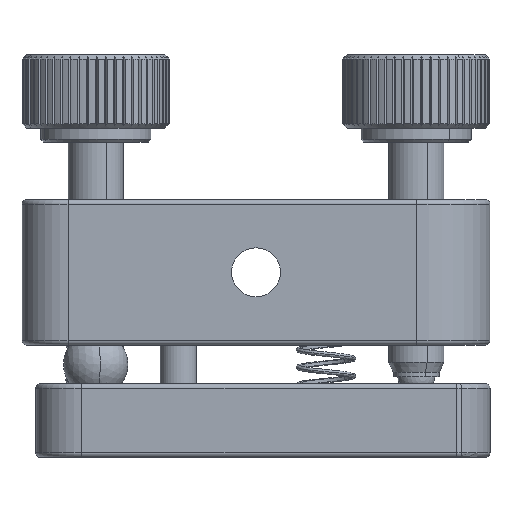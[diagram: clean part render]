
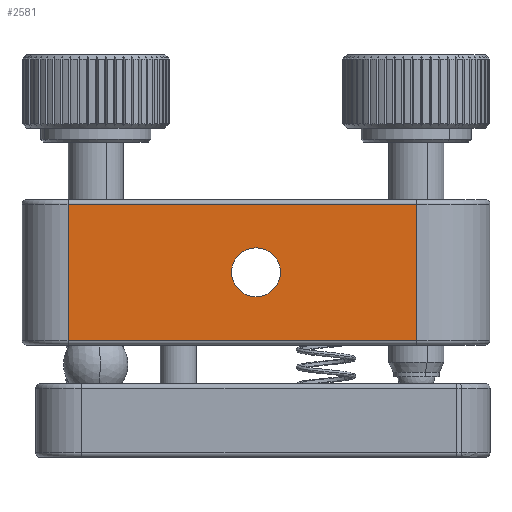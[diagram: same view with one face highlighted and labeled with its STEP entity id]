
A CAD part, front view. The second image highlights one B-rep face of the part: STEP entity #2581.
In plain terms, the highlighted planar face has unit normal (0, -1, 0).
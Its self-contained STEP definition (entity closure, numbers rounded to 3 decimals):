
#372 = DIRECTION ( 'NONE',  ( 1., 0., 0. ) ) ;
#480 = DIRECTION ( 'NONE',  ( -1., 0., 0. ) ) ;
#915 = EDGE_CURVE ( 'NONE', #11924, #27088, #6529, .T. ) ;
#1169 = CARTESIAN_POINT ( 'NONE',  ( 74.052, 27.866, -58.289 ) ) ;
#2581 = ADVANCED_FACE ( 'NONE', ( #6216, #16926 ), #27637, .F. ) ;
#3574 = CARTESIAN_POINT ( 'NONE',  ( 74.052, 27.866, -42.989 ) ) ;
#6064 = CARTESIAN_POINT ( 'NONE',  ( 74.052, 27.866, -58.289 ) ) ;
#6216 = FACE_BOUND ( 'NONE', #22654, .T. ) ;
#6529 = CIRCLE ( 'NONE', #12691, 2.65 ) ;
#7679 = VECTOR ( 'NONE', #9506, 1000. ) ;
#8292 = DIRECTION ( 'NONE',  ( 0., -1., 0. ) ) ;
#8398 = EDGE_CURVE ( 'NONE', #32775, #29671, #33453, .T. ) ;
#9116 = ORIENTED_EDGE ( 'NONE', *, *, #9224, .F. ) ;
#9224 = EDGE_CURVE ( 'NONE', #27088, #11924, #30071, .T. ) ;
#9281 = ORIENTED_EDGE ( 'NONE', *, *, #30942, .F. ) ;
#9429 = CARTESIAN_POINT ( 'NONE',  ( 36.252, 27.866, -42.989 ) ) ;
#9506 = DIRECTION ( 'NONE',  ( 0., 0., -1. ) ) ;
#9840 = VECTOR ( 'NONE', #11884, 1000. ) ;
#11884 = DIRECTION ( 'NONE',  ( 1., 0., 0. ) ) ;
#11924 = VERTEX_POINT ( 'NONE', #20615 ) ;
#12054 = ORIENTED_EDGE ( 'NONE', *, *, #915, .F. ) ;
#12691 = AXIS2_PLACEMENT_3D ( 'NONE', #32310, #8292, #18984 ) ;
#13731 = CARTESIAN_POINT ( 'NONE',  ( 56.652, 27.866, -50.889 ) ) ;
#13784 = EDGE_CURVE ( 'NONE', #30714, #32775, #13847, .T. ) ;
#13847 = LINE ( 'NONE', #24526, #16077 ) ;
#14296 = DIRECTION ( 'NONE',  ( 0., 1., 0. ) ) ;
#14303 = VERTEX_POINT ( 'NONE', #6064 ) ;
#14708 = ORIENTED_EDGE ( 'NONE', *, *, #23053, .T. ) ;
#14955 = AXIS2_PLACEMENT_3D ( 'NONE', #13731, #24419, #372 ) ;
#16077 = VECTOR ( 'NONE', #480, 1000. ) ;
#16926 = FACE_OUTER_BOUND ( 'NONE', #26846, .T. ) ;
#17785 = CARTESIAN_POINT ( 'NONE',  ( 54.002, 27.866, -50.889 ) ) ;
#18977 = CARTESIAN_POINT ( 'NONE',  ( 74.052, 27.866, -43.489 ) ) ;
#18984 = DIRECTION ( 'NONE',  ( 1., 0., 0. ) ) ;
#20041 = ORIENTED_EDGE ( 'NONE', *, *, #13784, .T. ) ;
#20109 = DIRECTION ( 'NONE',  ( 0., 0., -1. ) ) ;
#20182 = CARTESIAN_POINT ( 'NONE',  ( 36.252, 27.866, -58.289 ) ) ;
#20615 = CARTESIAN_POINT ( 'NONE',  ( 59.302, 27.866, -50.889 ) ) ;
#22654 = EDGE_LOOP ( 'NONE', ( #12054, #9116 ) ) ;
#22824 = LINE ( 'NONE', #33530, #7679 ) ;
#23053 = EDGE_CURVE ( 'NONE', #29671, #14303, #25210, .T. ) ;
#23292 = CARTESIAN_POINT ( 'NONE',  ( 36.252, 27.866, -43.489 ) ) ;
#24419 = DIRECTION ( 'NONE',  ( 0., -1., 0. ) ) ;
#24526 = CARTESIAN_POINT ( 'NONE',  ( 36.252, 27.866, -43.489 ) ) ;
#24991 = DIRECTION ( 'NONE',  ( -1., 0., 0. ) ) ;
#25210 = LINE ( 'NONE', #1169, #9840 ) ;
#26846 = EDGE_LOOP ( 'NONE', ( #33037, #14708, #9281, #20041 ) ) ;
#27048 = AXIS2_PLACEMENT_3D ( 'NONE', #3574, #14296, #24991 ) ;
#27088 = VERTEX_POINT ( 'NONE', #17785 ) ;
#27637 = PLANE ( 'NONE',  #27048 ) ;
#29671 = VERTEX_POINT ( 'NONE', #20182 ) ;
#30071 = CIRCLE ( 'NONE', #14955, 2.65 ) ;
#30714 = VERTEX_POINT ( 'NONE', #18977 ) ;
#30942 = EDGE_CURVE ( 'NONE', #30714, #14303, #22824, .T. ) ;
#32310 = CARTESIAN_POINT ( 'NONE',  ( 56.652, 27.866, -50.889 ) ) ;
#32775 = VERTEX_POINT ( 'NONE', #23292 ) ;
#33037 = ORIENTED_EDGE ( 'NONE', *, *, #8398, .T. ) ;
#33350 = VECTOR ( 'NONE', #20109, 1000. ) ;
#33453 = LINE ( 'NONE', #9429, #33350 ) ;
#33530 = CARTESIAN_POINT ( 'NONE',  ( 74.052, 27.866, -42.989 ) ) ;
